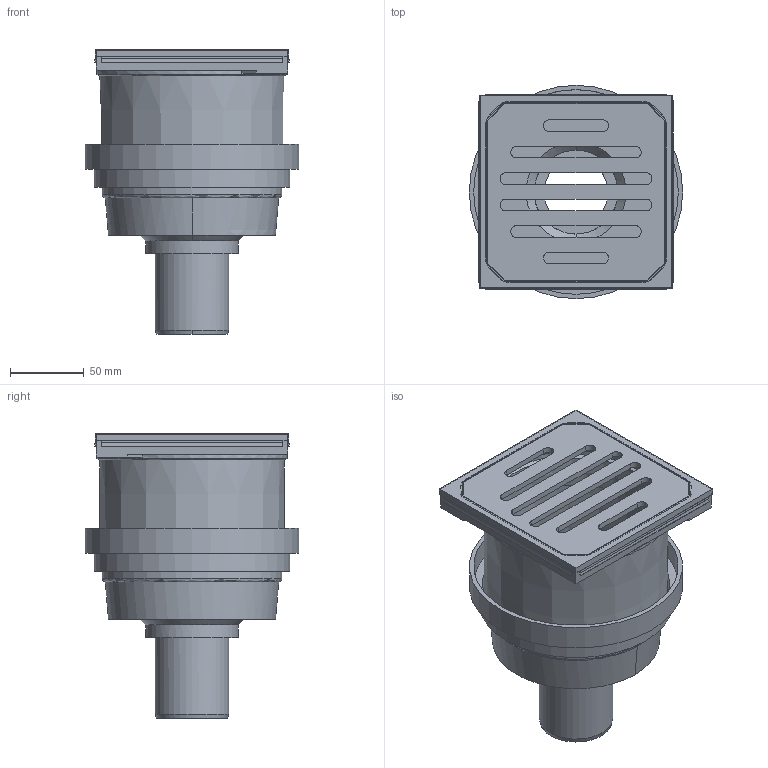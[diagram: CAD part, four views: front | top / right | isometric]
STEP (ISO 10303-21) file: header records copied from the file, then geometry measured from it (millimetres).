
FILE_DESCRIPTION(/* description */ (''),/* implementation_level */ '2;1');
FILE_NAME(/* name */ 'C:\Geberit-Teile\Export 2019\388.033.00.1\stp\388033.stp',/* time_stamp */ '2019-06-27T13:04:19+02:00',/* author */ ('JANAN'),/* organization */ (''),/* preprocessor_version */ 'ST-DEVELOPER v16.13',/* originating_system */ 'Autodesk Inventor 2018',/* authorisation */ '');
FILE_SCHEMA (('AUTOMOTIVE_DESIGN { 1 0 10303 214 3 1 1 }'));
Length unit declared in the file: millimetre
Products named in the file (2): Balkoneinlauf senkr. d50; 388.033.00.1
Assembly tree (1 placements, depth 2):
  Balkoneinlauf senkr. d50
    388.033.00.1
Bounding box: 145.09 x 145.09 x 193.7 mm (x, y, z)
Volume: 163897.5 mm3; surface area: 227740.5 mm2
Topology: 3 solids, 6 shells, 620 faces, 1631 edges, 1027 vertices
Faces by surface type: plane 275, cylinder 174, bspline 110, torus 33, cone 22, sphere 6
Full cylindrical faces by diameter (mm): 43.836 x1, 50 x1, 57 x1, 63 x1, 112 x1, 122 x1, 129.6 x1, 133 x1, 139.2 x1, 145.086 x1
Entity records: 26467 total; most frequent: CARTESIAN_POINT 10693, ORIENTED_EDGE 3206, DIRECTION 3122, EDGE_CURVE 1599, AXIS2_PLACEMENT_3D 1107, VERTEX_POINT 1023, LINE 908, VECTOR 908
